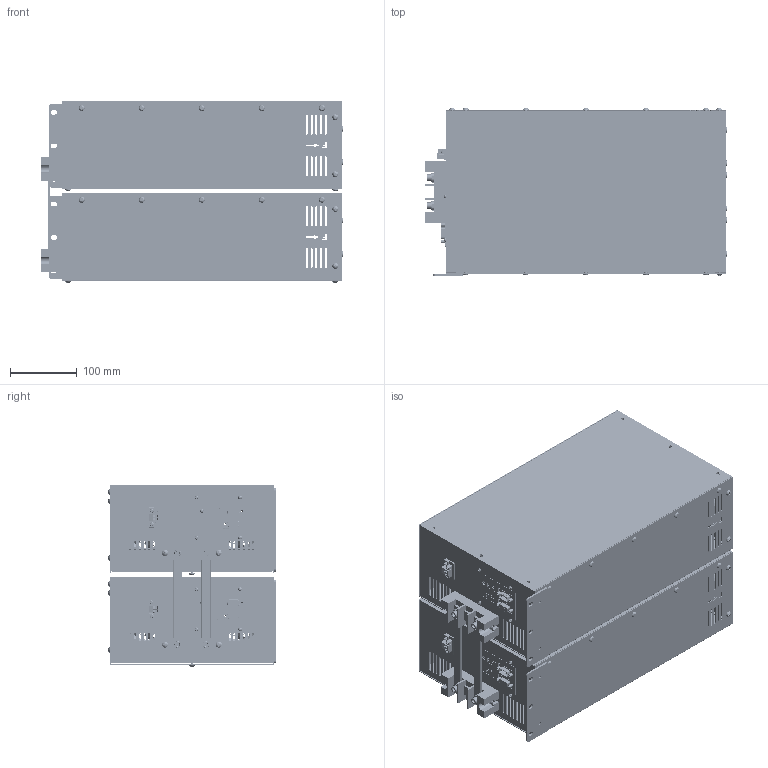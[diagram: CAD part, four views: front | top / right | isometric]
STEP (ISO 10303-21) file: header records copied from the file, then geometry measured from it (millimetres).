
FILE_DESCRIPTION(/* description */ (''),/* implementation_level */ '2;1');
FILE_NAME(/* name */ 'G:\016_배터리 버스바 도면\VX3COM\[3D 도면-수직형]\[IGS,STEP]\BUS-VX3-2P-i-L151.stp',/* time_stamp */ '2023-12-06T16:17:58+09:00',/* author */ ('jjang'),/* organization */ (''),/* preprocessor_version */ 'ST-DEVELOPER v18.1',/* originating_system */ 'Autodesk Inventor 2021',/* authorisation */ '');
FILE_SCHEMA (('AUTOMOTIVE_DESIGN { 1 0 10303 214 3 1 1 }'));
Products named in the file (1): $VX3COM BUSBAR ASS'Y(VERTICAL)_Shrinkwrap_1
Bounding box: 449.8 x 250.54 x 271.59 mm (x, y, z)
Volume: 1369398.7 mm3; surface area: 1760221.1 mm2
Topology: 16 solids, 16 shells, 9318 faces, 27700 edges, 19184 vertices
Faces by surface type: plane 5206, cylinder 2368, bspline 1356, torus 256, cone 78, sphere 54
Full cylindrical faces by diameter (mm): 0.609 x2, 0.61 x54, 0.635 x18, 0.9 x12, 1.397 x18, 1.4 x2, 2.286 x18, 2.8 x16, 2.957 x8, 3 x4, 3.048 x8, 3.2 x8, 3.6 x20, 3.783 x4, 3.8 x4, 3.9 x4, 4 x54, 4.3 x24, 4.5 x8, 5 x34, 5.3 x40, 5.4 x4, 5.429 x4, 5.6 x8, 5.9 x4, 6 x4, 6.082 x2, 6.2 x6, 7 x4, 8 x2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
Entity records: 376213 total; most frequent: CARTESIAN_POINT 122869, ORIENTED_EDGE 55324, DIRECTION 45838, EDGE_CURVE 27662, VERTEX_POINT 19184, LINE 15468, VECTOR 15468, AXIS2_PLACEMENT_3D 15185
